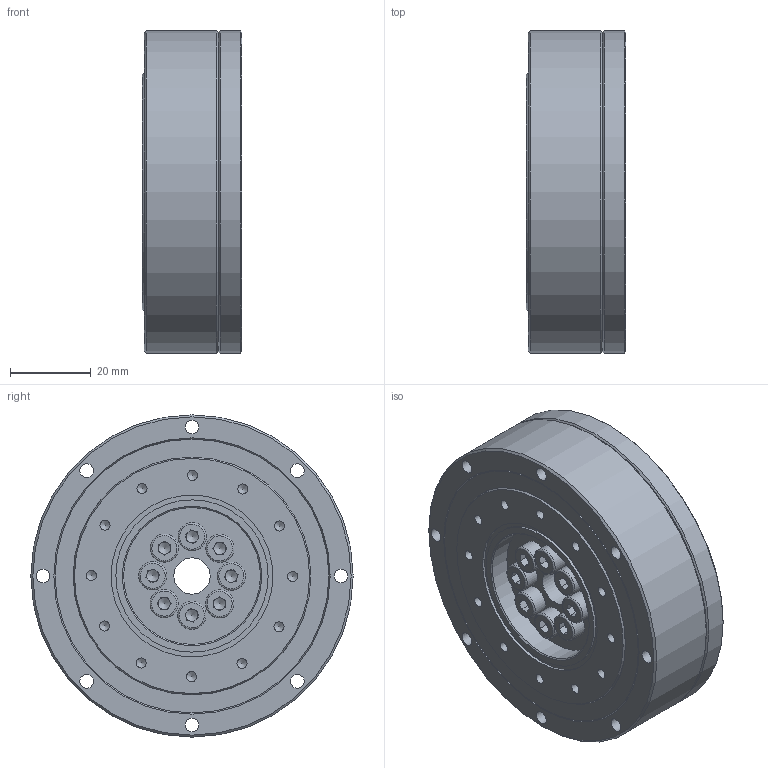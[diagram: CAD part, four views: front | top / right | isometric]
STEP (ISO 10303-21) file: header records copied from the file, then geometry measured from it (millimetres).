
FILE_DESCRIPTION (( 'STEP AP203' ), '1' );
FILE_NAME ('LCD-17-XXX-C-I.STEP', '2025-01-20T02:19:03', ( '' ), ( '' ), 'SwSTEP 2.0', 'SolidWorks 2023', '' );
FILE_SCHEMA (( 'CONFIG_CONTROL_DESIGN' ));
Length unit declared in the file: metre
Products named in the file (1): LCD-17-XXX-C-I
Bounding box: 24.7 x 80 x 80 mm (x, y, z)
Volume: 93185.4 mm3; surface area: 66473.1 mm2
Topology: 40 solids, 40 shells, 1091 faces, 2532 edges, 1596 vertices
Faces by surface type: plane 583, cylinder 269, cone 154, bspline 85
Full cylindrical faces by diameter (mm): 1.6 x8, 2 x8, 2.4 x8, 2.5 x28, 3 x12, 3.3 x20, 3.4 x20, 3.8 x8, 4 x8, 4.5 x16, 4.8 x4, 5.5 x12, 7 x8, 9 x2, 11 x2, 15 x1, 16 x2, 27 x2, 27.2 x2, 29.4 x1, 30.295 x1, 30.5 x1, 32 x2, 32.53 x2, 33.23 x1, 34 x1, 36 x1, 37.8 x1, 38.79 x1, 39.6 x1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
Entity records: 33488 total; most frequent: CARTESIAN_POINT 10431, DIRECTION 4806, ORIENTED_EDGE 4120, EDGE_CURVE 2060, AXIS2_PLACEMENT_3D 1949, EDGE_LOOP 1726, VERTEX_POINT 1516, FACE_OUTER_BOUND 1341
